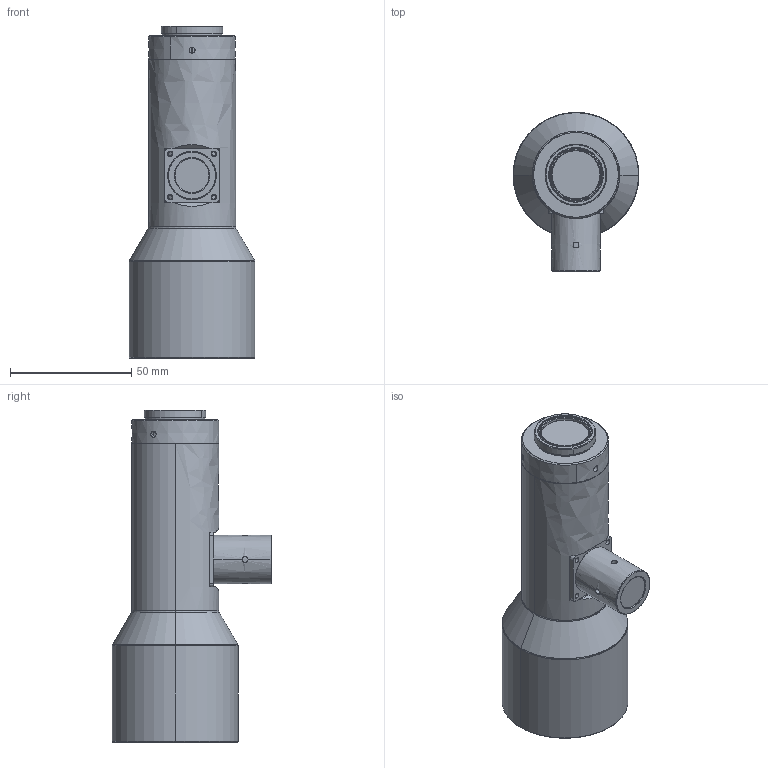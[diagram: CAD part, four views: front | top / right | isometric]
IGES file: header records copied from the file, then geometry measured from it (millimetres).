
Start section: SolidWorks IGES file using analytic representation for surfaces
Global section: file name: E:\图纸\镜头\WWK\K05063-110系列\WWK05-110-111V3\A2.0\发客户3D\WWK05-110C-111V3.IGS; native system: SolidWorks 2017; preprocessor: SolidWorks 2017; author: gc; date: 230323.165507; units: millimetre
Bounding box: 52 x 65.9 x 137.17 mm (x, y, z)
Surface area: 24562.1 mm2 (no closed solid volume)
Topology: 0 solids, 0 shells, 168 faces, 3792 edges, 3792 vertices
Faces by surface type: revolution 123, bspline 45
